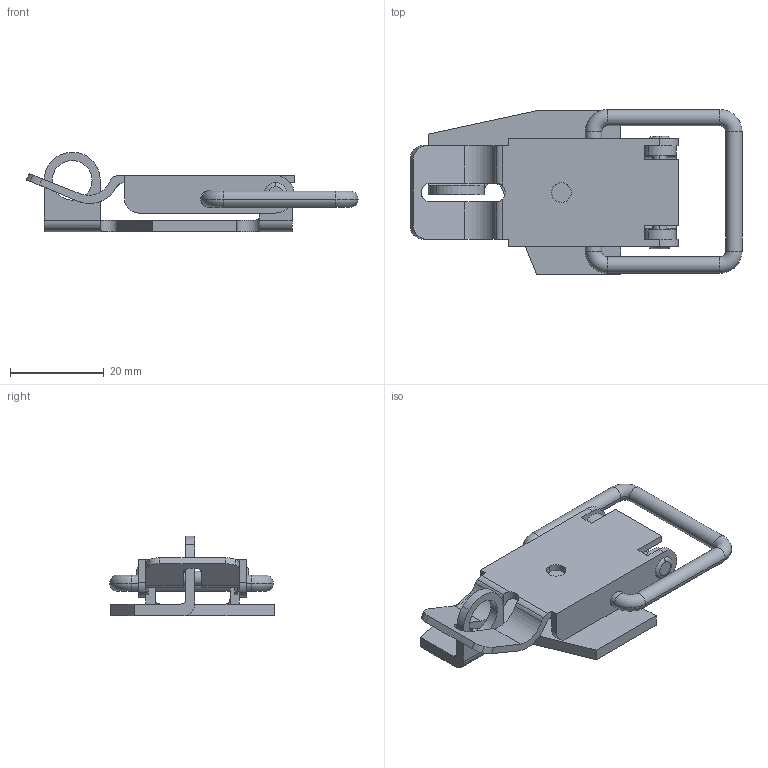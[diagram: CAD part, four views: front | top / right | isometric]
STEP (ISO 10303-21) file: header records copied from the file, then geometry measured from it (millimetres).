
FILE_DESCRIPTION((''),'2;1');
FILE_NAME('3008.stp','2023-09-28T15:34:32',(''),(''),'Mechanical Desktop 2006','Mechanical Desktop 2006',', , ');
FILE_SCHEMA(('CONFIG_CONTROL_DESIGN'));
Length unit declared in the file: millimetre
Products named in the file (5): 3008; H.BET.3007; FANG BÜGEL 3004-06; ~STIFT L23; GRUND
Assembly tree (4 placements, depth 2):
  3008
    H.BET.3007
    FANG BÜGEL 3004-06
    ~STIFT L23
    GRUND
Bounding box: 70.97 x 35.25 x 16.99 mm (x, y, z)
Volume: 6997.6 mm3; surface area: 8533.7 mm2
Topology: 4 solids, 4 shells, 147 faces, 391 edges, 254 vertices
Faces by surface type: cylinder 84, plane 49, torus 8, bspline 6
Entity records: 5117 total; most frequent: CARTESIAN_POINT 1147, DIRECTION 850, ORIENTED_EDGE 782, EDGE_CURVE 391, AXIS2_PLACEMENT_3D 329, VERTEX_POINT 254, VECTOR 192, LINE 192
